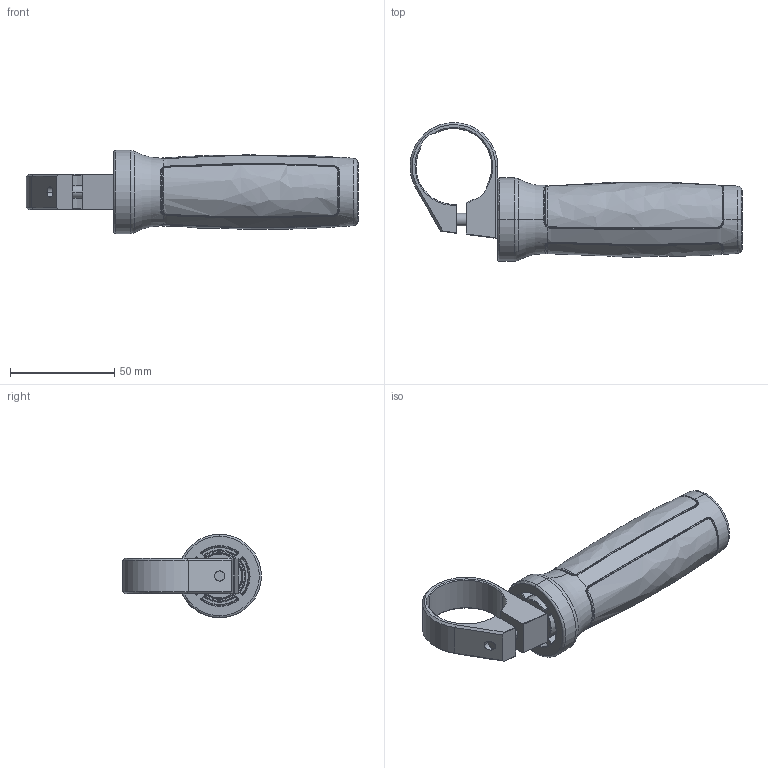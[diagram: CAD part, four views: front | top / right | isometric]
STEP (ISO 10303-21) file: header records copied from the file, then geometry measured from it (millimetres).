
FILE_DESCRIPTION((''),'2;1');
FILE_NAME('6153970160','2017-10-25T',('greextsd'),(''),'CREO PARAMETRIC BY PTC INC, 2017170','CREO PARAMETRIC BY PTC INC, 2017170','');
FILE_SCHEMA(('AUTOMOTIVE_DESIGN { 1 0 10303 214 1 1 1 1 }'));
Length unit declared in the file: millimetre
Products named in the file (1): 6153970160
Bounding box: 158.98 x 66.5 x 40 mm (x, y, z)
Volume: 84035.8 mm3; surface area: 33073.8 mm2
Topology: 1 solids, 1 shells, 488 faces, 1135 edges, 656 vertices
Faces by surface type: bspline 160, cylinder 80, torus 74, plane 72, cone 52, sphere 50
Entity records: 24555 total; most frequent: CARTESIAN_POINT 11267, ORIENTED_EDGE 2270, DIRECTION 1878, EDGE_CURVE 1135, AXIS2_PLACEMENT_3D 819, VERTEX_POINT 656, EDGE_LOOP 499, CIRCLE 491
